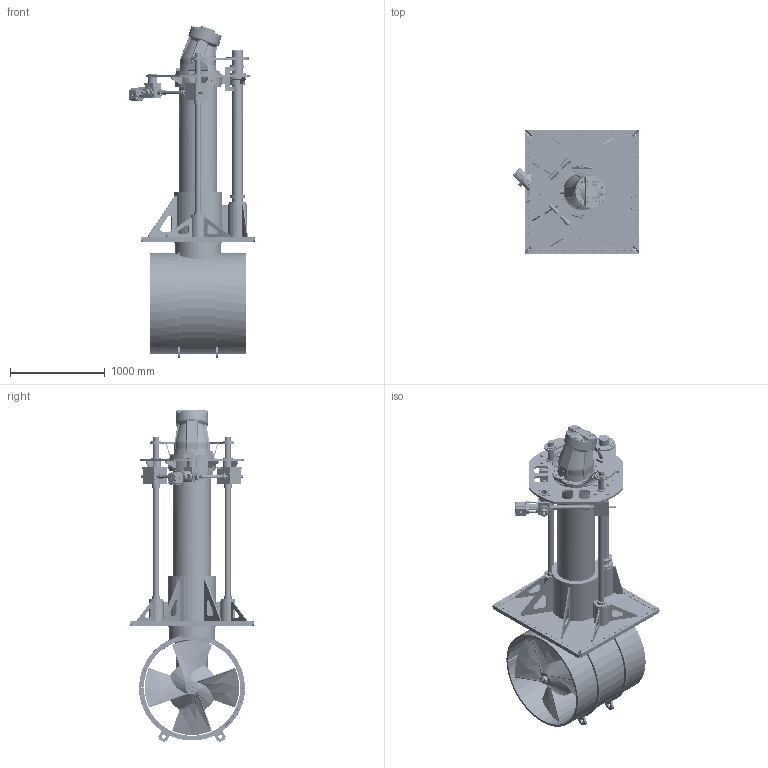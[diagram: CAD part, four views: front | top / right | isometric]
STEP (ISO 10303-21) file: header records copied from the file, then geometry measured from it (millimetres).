
FILE_DESCRIPTION(/* description */ (''),/* implementation_level */ '2;1');
FILE_NAME(/* name */ 'Q:\THRUSTERS\THRUSTER SALES & SUPPORT DOCS\THRUSTER Sales\H-V\H-1000-V\H-1000-V.stp',/* time_stamp */ '2020-03-18T12:27:36+00:00',/* author */ ('charlotte.richardson'),/* organization */ (''),/* preprocessor_version */ 'ST-DEVELOPER v17',/* originating_system */ 'Autodesk Inventor 2019',/* authorisation */ '');
FILE_SCHEMA (('AUTOMOTIVE_DESIGN { 1 0 10303 214 3 1 1 }'));
Products named in the file (1): H-1000-V_Shrinkwrap_1
Bounding box: 1328.99 x 1301.98 x 3499.53 mm (x, y, z)
Volume: 456614307.7 mm3; surface area: 29478414.7 mm2
Topology: 3 solids, 3 shells, 4422 faces, 11732 edges, 7653 vertices
Faces by surface type: plane 1658, cylinder 1413, bspline 802, cone 360, torus 161, sphere 28
Full cylindrical faces by diameter (mm): 7.2 x2, 10.11 x16, 10.25 x58, 10.5 x14, 11 x12, 11.8 x2, 12 x2, 12.4 x8, 12.5 x30, 13 x22, 14 x4, 14.32 x2, 15.25 x4, 15.8 x13, 16 x13, 16.5 x68, 17 x26, 17.5 x24, 18 x6, 18.376 x2, 19 x42, 20 x3, 20.5 x16, 20.752 x1, 21 x23, 22 x8, 23.75 x2, 24 x1, 24.5 x2, 25 x18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
Entity records: 220935 total; most frequent: CARTESIAN_POINT 110003, ORIENTED_EDGE 23102, DIRECTION 20815, EDGE_CURVE 11551, AXIS2_PLACEMENT_3D 8043, VERTEX_POINT 7652, EDGE_LOOP 5235, LINE 4729
